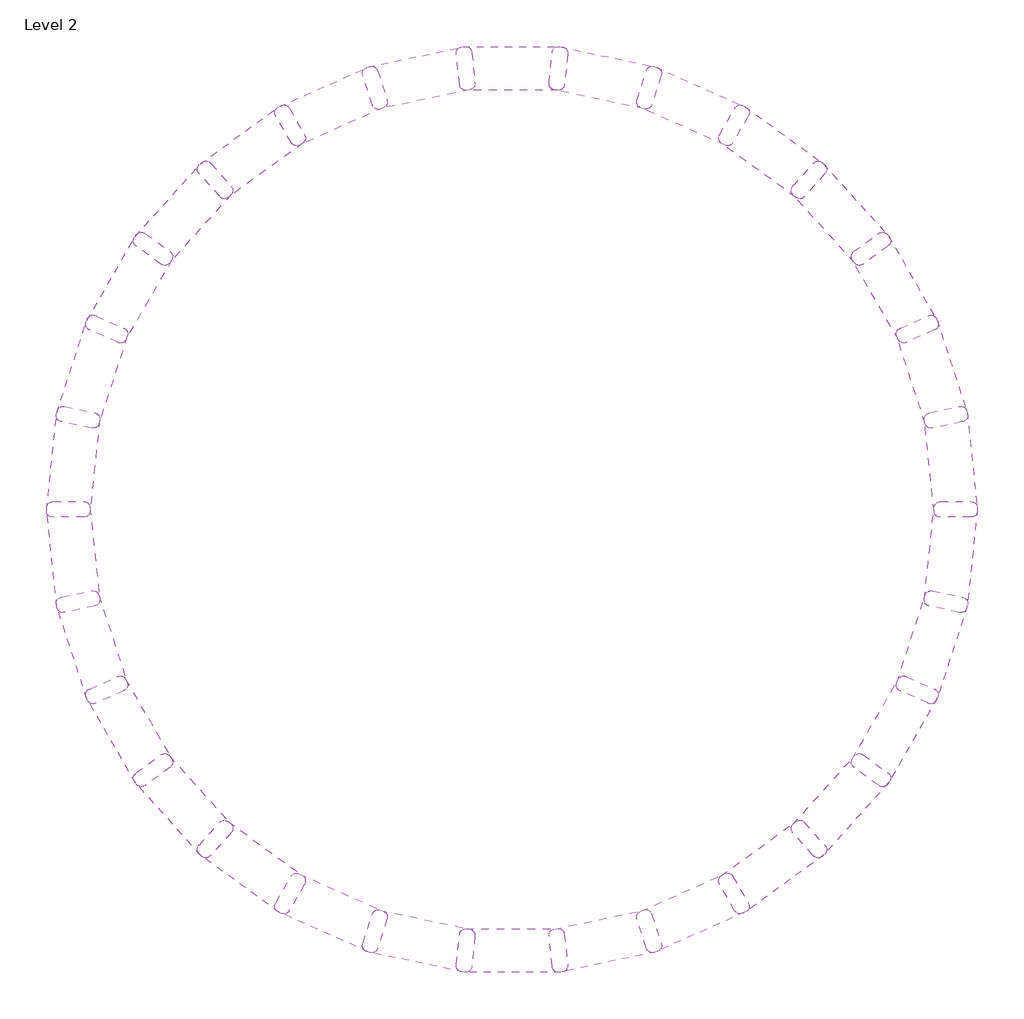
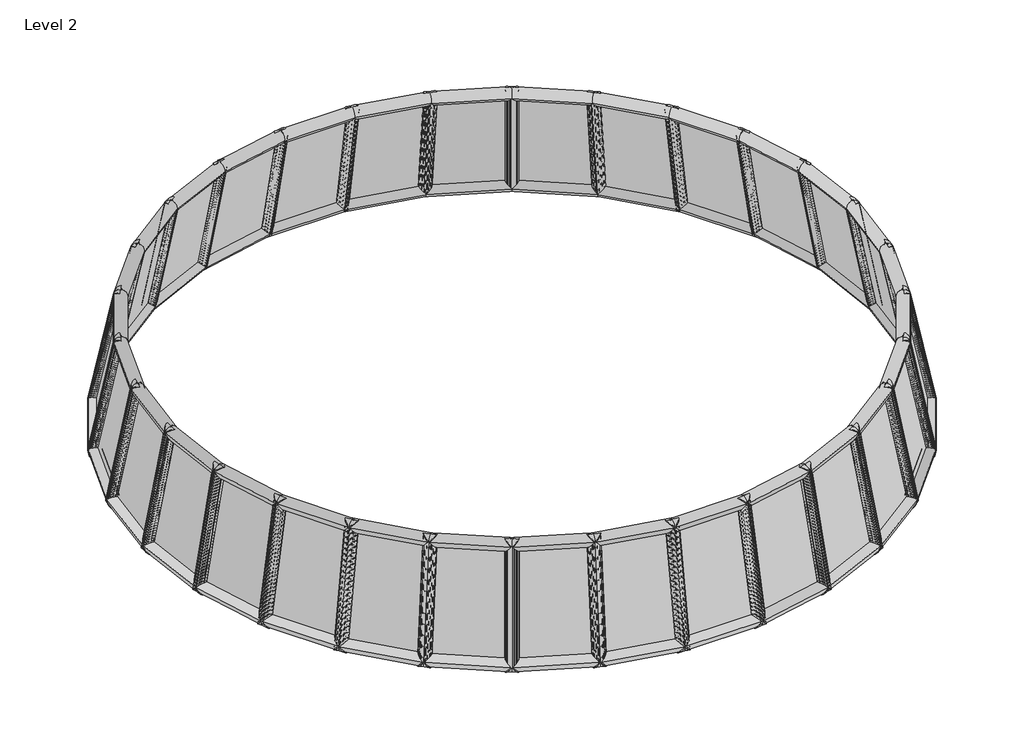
# One storey: 30 plates.
"""IFC4 building model written with IfcOpenShell, lengths in millimetres."""

import ifcopenshell
import ifcopenshell.guid

model = None  # the IFC model being written
_history = None  # IfcOwnerHistory: only IFC2X3 demands one
_inside = {}  # id of a spatial element -> (the spatial element, [elements in it])
_under = {}  # id of a project, library or spatial element -> (it, [spatial elements below it])
_declared = {}  # id of a project -> (the project, [libraries it declares])
_typed = {}  # id of a type object -> (the type object, [elements of that type])
_made_of = {}  # id of a material, layer set ... -> (it, [elements and type objects made of it])


def new_model(schema):
    """Start an empty IFC model of exactly this schema.

    Asked for "IFC4X3", IfcOpenShell would pick the latest addendum, in which some entities
    have other attributes; the version numbers below select the first issue.
    IFC2X3 requires an IfcOwnerHistory on every rooted entity: one is made here for all.
    """
    global model, _history
    if schema == "IFC4X3":
        model = ifcopenshell.file(schema_version=(4, 3, 0, 0))
    else:
        model = ifcopenshell.file(schema=schema)
    _inside.clear()
    _under.clear()
    _declared.clear()
    _typed.clear()
    _made_of.clear()
    _history = None
    if model.schema == "IFC2X3":
        org = make("IfcOrganization", Name="unknown")
        user = make(
            "IfcPersonAndOrganization",
            ThePerson=make("IfcPerson", FamilyName="unknown"),
            TheOrganization=org,
        )
        app = make(
            "IfcApplication",
            ApplicationDeveloper=org,
            Version="unknown",
            ApplicationFullName="unknown",
            ApplicationIdentifier="unknown",
        )
        _history = make(
            "IfcOwnerHistory",
            OwningUser=user,
            OwningApplication=app,
            ChangeAction="ADDED",
            CreationDate=0,
        )
    return model


def make(cls, **values):
    """One entity of the class cls with the attributes given. An attribute that is None is left unset."""
    return model.create_entity(
        cls, **{name: value for name, value in values.items() if value is not None}
    )


def rooted(cls, **values):
    """An entity with a GlobalId (a new one), such as an element, a storey or a relation."""
    return make(cls, GlobalId=ifcopenshell.guid.new(), OwnerHistory=_history, **values)


def si_unit(unit_type, name, prefix=None):
    """IfcSIUnit, for example si_unit("LENGTHUNIT", "METRE", prefix="MILLI")."""
    return make("IfcSIUnit", UnitType=unit_type, Prefix=prefix, Name=name)


def assignment(units):
    """IfcUnitAssignment: the units of a project."""
    return None if units is None else make("IfcUnitAssignment", Units=units)


def point(xyz):
    """IfcCartesianPoint."""
    return None if xyz is None else make("IfcCartesianPoint", Coordinates=xyz)


def direction(xyz):
    """IfcDirection."""
    return None if xyz is None else make("IfcDirection", DirectionRatios=xyz)


def frame(location, z_axis=None, x_axis=None):
    """IfcAxis2Placement3D, a coordinate frame: its origin and axes. An axis left out is left unset."""
    return make(
        "IfcAxis2Placement3D",
        Location=point(location),
        Axis=direction(z_axis),
        RefDirection=direction(x_axis),
    )


def origin():
    """The frame at (0, 0, 0) with its axes left unset."""
    return frame((0.0, 0.0, 0.0))


def origin_with_axes():
    """The frame at (0, 0, 0) with the z axis (0, 0, 1) and the x axis (1, 0, 0) written out."""
    return frame((0.0, 0.0, 0.0), z_axis=(0.0, 0.0, 1.0), x_axis=(1.0, 0.0, 0.0))


def place(relative_to, where):
    """IfcLocalPlacement: puts the frame where relative to a parent placement (None: the world)."""
    return make(
        "IfcLocalPlacement", PlacementRelTo=relative_to, RelativePlacement=where
    )


def context(
    kind, dimensions, precision=None, world=None, true_north=None, identifier=None
):
    """IfcGeometricRepresentationContext, for example the 3D "Model" context."""
    return make(
        "IfcGeometricRepresentationContext",
        ContextIdentifier=identifier,
        ContextType=kind,
        CoordinateSpaceDimension=dimensions,
        Precision=precision,
        WorldCoordinateSystem=world,
        TrueNorth=true_north,
    )


def project(units=None, contexts=None):
    """IfcProject with its units and contexts."""
    return rooted(
        "IfcProject",
        Name="project",
        RepresentationContexts=contexts,
        UnitsInContext=assignment(units),
    )


def spatial(cls, under=None, at=None, **own):
    """A site, building, storey or space (cls), placed at a placement, below another one or the project."""
    s = rooted(cls, ObjectPlacement=at, **own)
    if under is not None:
        _under.setdefault(under.id(), (under, []))[1].append(s)
    return s


def polyline(points):
    """IfcPolyline through the points."""
    return make("IfcPolyline", Points=[point(p) for p in points])


def ellipse_curve(where, semi_axis1, semi_axis2):
    """IfcEllipse in the frame where."""
    return make(
        "IfcEllipse", Position=where, SemiAxis1=semi_axis1, SemiAxis2=semi_axis2
    )


def outline(outer, holes=None, kind="AREA"):
    """IfcArbitraryClosedProfileDef: a profile drawn as a closed curve; with holes, ...WithVoids."""
    if holes is None:
        return make("IfcArbitraryClosedProfileDef", ProfileType=kind, OuterCurve=outer)
    return make(
        "IfcArbitraryProfileDefWithVoids",
        ProfileType=kind,
        OuterCurve=outer,
        InnerCurves=holes,
    )


def extrude(swept, where, along, depth):
    """IfcExtrudedAreaSolid: the profile swept, set in the frame where, extruded along a direction by depth."""
    return make(
        "IfcExtrudedAreaSolid",
        SweptArea=swept,
        Position=where,
        ExtrudedDirection=direction(along),
        Depth=depth,
    )


def shape(context_of_items, identifier, shape_type, items):
    """IfcShapeRepresentation: the items that make up one representation, for example the "Body"."""
    return make(
        "IfcShapeRepresentation",
        ContextOfItems=context_of_items,
        RepresentationIdentifier=identifier,
        RepresentationType=shape_type,
        Items=items,
    )


def source(mapping_origin, context_of_items, identifier, shape_type, items):
    """IfcRepresentationMap: a shape defined once, which mapped items show again and again."""
    return make(
        "IfcRepresentationMap",
        MappingOrigin=mapping_origin,
        MappedRepresentation=shape(context_of_items, identifier, shape_type, items),
    )


def transform(
    local_origin,
    x_axis=None,
    y_axis=None,
    z_axis=None,
    scale=None,
    scale2=None,
    scale3=None,
    uniform=True,
):
    """IfcCartesianTransformationOperator3D, or its non-uniform kind. x_axis, y_axis, z_axis: its Axis1, 2, 3."""
    if uniform:
        return make(
            "IfcCartesianTransformationOperator3D",
            Axis1=direction(x_axis),
            Axis2=direction(y_axis),
            LocalOrigin=point(local_origin),
            Scale=scale,
            Axis3=direction(z_axis),
        )
    return make(
        "IfcCartesianTransformationOperator3DnonUniform",
        Axis1=direction(x_axis),
        Axis2=direction(y_axis),
        LocalOrigin=point(local_origin),
        Scale=scale,
        Axis3=direction(z_axis),
        Scale2=scale2,
        Scale3=scale3,
    )


def mapped(mapping_source, mapping_target):
    """IfcMappedItem: shows the shape of a source again, moved by a transform."""
    return make(
        "IfcMappedItem", MappingSource=mapping_source, MappingTarget=mapping_target
    )


def made_of(thing, what):
    """Note that an element or type object is made of a material, layer set ...; save() writes the relation."""
    if what is not None:
        _made_of.setdefault(what.id(), (what, []))[1].append(thing)
    return thing


def element(
    cls,
    number,
    at=None,
    inside=None,
    cuts=None,
    type_object=None,
    material=None,
    context=None,
    identifier="Body",
    shape_type=None,
    held_by="IfcProductDefinitionShape",
    body=None,
    shapes=None,
    **own,
):
    """One element of the class cls, such as IfcWall. Its Tag is "e" and its number.

    at: its placement. inside: the storey or other place that contains it. cuts: it is an
    opening in that element (IfcRelVoidsElement). A single representation is given by context,
    identifier, shape_type and body (its items); several are given by shapes. held_by: the class
    of the entity that holds the representations. save() writes the other relations.
    """
    e = rooted(cls, Tag="e%d" % number, ObjectPlacement=at, **own)
    if body is not None:
        shapes = [shape(context, identifier, shape_type, body)]
    if shapes is not None:
        e.Representation = make(held_by, Representations=shapes)
    if inside is not None:
        _inside.setdefault(inside.id(), (inside, []))[1].append(e)
    if cuts is not None:
        rooted(
            "IfcRelVoidsElement", RelatingBuildingElement=cuts, RelatedOpeningElement=e
        )
    if type_object is not None:
        _typed.setdefault(type_object.id(), (type_object, []))[1].append(e)
    return made_of(e, material)


def aggregate(whole, parts):
    """IfcRelAggregates: a whole, such as a stair, and the parts it consists of."""
    return rooted("IfcRelAggregates", RelatingObject=whole, RelatedObjects=parts)


def save(model, path):
    """Write the relations noted so far, then the file.

    IfcRelAggregates (storeys below a building ...), IfcRelContainedInSpatialStructure (elements
    in a storey), IfcRelDefinesByType, IfcRelAssociatesMaterial and IfcRelDeclares: one each for
    every whole, place, type object, material and project.
    """
    for whole, parts in _under.values():
        aggregate(whole, parts)
    for where, things in _inside.values():
        rooted(
            "IfcRelContainedInSpatialStructure",
            RelatedElements=things,
            RelatingStructure=where,
        )
    for kind, things in _typed.values():
        rooted("IfcRelDefinesByType", RelatedObjects=things, RelatingType=kind)
    for what, things in _made_of.values():
        rooted("IfcRelAssociatesMaterial", RelatedObjects=things, RelatingMaterial=what)
    for by, libraries in _declared.values():
        rooted("IfcRelDeclares", RelatingContext=by, RelatedDefinitions=libraries)
    model.write(path)


def cylinder_surface(at, radius):
    """IfcCylindricalSurface: all points at the distance radius from the z axis of the frame at."""
    return make("IfcCylindricalSurface", Position=at, Radius=radius)


def advanced_brep(points, edges, surfaces, faces):
    """IfcAdvancedBrep: a solid bounded by faces that lie on surfaces and meet in shared edges.

    An edge is (start, end): straight between two places in points (the first is 0);
    or (start, end, curve); or (start, end, curve, False) where it runs against its curve.
    A face is (place in surfaces, loops), or (place, loops, False) where it looks against
    its surface's normal. A loop lists edges by number (the first is 1), with a minus sign
    where the edge is run from its end to its start. The first loop is the outer one.
    """
    corners = [point(p) for p in points]
    vertices = [make("IfcVertexPoint", VertexGeometry=c) for c in corners]
    made = []
    for start, end, *more in edges:
        made.append(
            make(
                "IfcEdgeCurve",
                EdgeStart=vertices[start],
                EdgeEnd=vertices[end],
                EdgeGeometry=more[0] if more else make("IfcPolyline", Points=[corners[start], corners[end]]),
                SameSense=more[1] if len(more) > 1 else True,
            )
        )
    hull = []
    for where, loops, *sense in faces:
        bounds = []
        for j, loop in enumerate(loops):
            ring = [make("IfcOrientedEdge", EdgeElement=made[abs(k) - 1], Orientation=k > 0) for k in loop]
            bounds.append(
                make(
                    "IfcFaceOuterBound" if j == 0 else "IfcFaceBound",
                    Bound=make("IfcEdgeLoop", EdgeList=ring),
                    Orientation=True,
                )
            )
        hull.append(make("IfcAdvancedFace", Bounds=bounds, FaceSurface=surfaces[where], SameSense=sense[0] if sense else True))
    return make("IfcAdvancedBrep", Outer=make("IfcClosedShell", CfsFaces=hull))


def curtainpanel_curtainpanel_0605ef13(model_context):
    return source(origin(), model_context, "Body", "SolidModel", [
        extrude(outline(polyline([(2879.1178146, 2879.1178146), (3705.8247799, 6851.9965682), (6345.4179195, 6246.4051917), (5357.6394861, 2310.4804256), (2879.1178146, 2879.1178146)])), origin_with_axes(), (0.0, 0.0, 1.0), 20.0),
        advanced_brep(
        [(2879.1178146, 2879.1178146, -220.0), (2879.1178146, 2879.1178146, 220.0), (5357.6394861, 2310.4804256, 220.0), (5357.6394861, 2310.4804256, -220.0), (6345.4179195, 6246.4051917, 220.0), (6345.4179195, 6246.4051917, -220.0), (3705.8247799, 6851.9965682, 220.0), (3705.8247799, 6851.9965682, -220.0)],
        [
            (0, 1, ellipse_curve(frame((2879.1178146, 2879.1178146, 0.0), z_axis=(0.5396797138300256, -0.8418704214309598, 0.0), x_axis=(-0.8418704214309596, -0.5396797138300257, 0.0)), 308.006986, 220.0)),
            (1, 2),
            (2, 3, ellipse_curve(frame((5357.6394861, 2310.4804256, 0.0), z_axis=(-0.8526847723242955, -0.5224257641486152, 0.0), x_axis=(-0.5224257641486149, 0.8526847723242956, 0.0)), 308.006986, 220.0)),
            (3, 0),
            (1, 0, ellipse_curve(frame((2879.1178146, 2879.1178146, 0.0), z_axis=(0.5396797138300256, -0.8418704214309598, 0.0), x_axis=(-0.8418704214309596, -0.5396797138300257, 0.0)), 308.006986, 220.0)),
            (3, 2, ellipse_curve(frame((5357.6394861, 2310.4804256, 0.0), z_axis=(-0.8526847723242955, -0.5224257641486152, 0.0), x_axis=(-0.5224257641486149, 0.8526847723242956, 0.0)), 308.006986, 220.0)),
            (2, 4),
            (4, 5, ellipse_curve(frame((6345.4179195, 6246.4051917, 0.0), z_axis=(0.5224257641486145, -0.8526847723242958, 0.0), x_axis=(-0.852684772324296, -0.5224257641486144, 0.0)), 314.3437571, 220.0)),
            (5, 3),
            (5, 4, ellipse_curve(frame((6345.4179195, 6246.4051917, 0.0), z_axis=(0.5224257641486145, -0.8526847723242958, 0.0), x_axis=(-0.852684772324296, -0.5224257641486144, 0.0)), 314.3437571, 220.0)),
            (4, 6),
            (6, 7, ellipse_curve(frame((3705.8247799, 6851.9965682, 0.0), z_axis=(0.8418704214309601, 0.5396797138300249, 0.0), x_axis=(0.539679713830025, -0.84187042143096, 0.0)), 314.3437571, 220.0)),
            (7, 5),
            (7, 6, ellipse_curve(frame((3705.8247799, 6851.9965682, 0.0), z_axis=(0.8418704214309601, 0.5396797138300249, 0.0), x_axis=(0.539679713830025, -0.84187042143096, 0.0)), 314.3437571, 220.0)),
            (6, 1),
            (0, 7),
        ],
        [
            cylinder_surface(frame((2879.1178146, 2879.1178146, 0.0), z_axis=(-0.9746772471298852, 0.22361633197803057, 0.0), x_axis=(0.22361633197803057, 0.9746772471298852, 0.0)), 220.0),
            cylinder_surface(frame((5357.6394861, 2310.4804256, 0.0), z_axis=(-0.24341622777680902, -0.9699219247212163, 0.0), x_axis=(-0.9699219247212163, 0.24341622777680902, 0.0)), 220.0),
            cylinder_surface(frame((6345.4179195, 6246.4051917, 0.0), z_axis=(0.9746772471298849, -0.22361633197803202, 0.0), x_axis=(-0.22361633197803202, -0.9746772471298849, 0.0)), 220.0),
            cylinder_surface(frame((3705.8247799, 6851.9965682, 0.0), z_axis=(0.2037237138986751, 0.9790284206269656, 0.0), x_axis=(0.9790284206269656, -0.2037237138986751, 0.0)), 220.0),
        ],
        [
            (0, [[1, 2, 3, 4]]),
            (0, [[5, -4, 6, -2]]),
            (1, [[-3, 7, 8, 9]]),
            (1, [[-6, -9, 10, -7]]),
            (2, [[-8, 11, 12, 13]]),
            (2, [[-10, -13, 14, -11]]),
            (3, [[-12, 15, -1, 16]]),
            (3, [[-14, -16, -5, -15]]),
        ],
    ),
    ])


model = new_model("IFC4")

# Units and contexts
model_context = context("Model", 3, world=origin())
ifc_project = project(units=[si_unit("LENGTHUNIT", "METRE", prefix="MILLI")], contexts=[model_context])

# Site, building, storey
site = spatial("IfcSite", under=ifc_project)
building = spatial("IfcBuilding", under=site)
storey = spatial("IfcBuildingStorey", under=building, Name="Level 2", Elevation=4000.0)

# Plates
placement = place(None, origin())
curtainpanel_curtainpanel_shape = curtainpanel_curtainpanel_0605ef13(model_context)
element("IfcPlate", 1, ObjectType="CurtainPanel : CurtainPanel", at=placement, inside=storey, context=model_context, shape_type="MappedRepresentation", body=[
    mapped(curtainpanel_curtainpanel_shape, transform((11413.8214092, -2502.0747591, 15217.1670744), x_axis=(-0.05878863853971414, 0.9738671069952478, -0.2193781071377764), y_axis=(0.21120333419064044, -0.20264970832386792, -0.9562040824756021), z_axis=(-0.9756726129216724, -0.1025473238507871, -0.19377047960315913))),
])
element("IfcPlate", 2, ObjectType="CurtainPanel : CurtainPanel", at=placement, inside=storey, context=model_context, shape_type="MappedRepresentation", body=[
    mapped(curtainpanel_curtainpanel_shape, transform((11303.2768301, 2458.8480989, 15217.1670744), x_axis=(-0.44981353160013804, 0.8657603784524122, -0.219378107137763), y_axis=(0.2753689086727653, -0.09922558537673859, -0.9562040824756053), z_axis=(-0.8496115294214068, -0.4905234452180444, -0.1937704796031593))),
])
element("IfcPlate", 3, ObjectType="CurtainPanel : CurtainPanel", at=placement, inside=storey, context=model_context, shape_type="MappedRepresentation", body=[
    mapped(curtainpanel_curtainpanel_shape, transform((9184.5002221, 6945.9141106, 15217.1670744), x_axis=(-0.7630615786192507, 0.6079558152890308, -0.21937810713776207), y_axis=(0.29192069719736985, 0.021355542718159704, -0.9562040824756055), z_axis=(-0.5766448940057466, -0.7936836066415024, -0.19377047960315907))),
])
element("IfcPlate", 4, ObjectType="CurtainPanel : CurtainPanel", at=placement, inside=storey, context=model_context, shape_type="MappedRepresentation", body=[
    mapped(curtainpanel_curtainpanel_shape, transform((5423.8473093, 10183.2687988, 15217.1670744), x_axis=(-0.9443693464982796, 0.24503016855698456, -0.21937810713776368), y_axis=(0.2579967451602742, 0.13824410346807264, -0.9562040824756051), z_axis=(-0.2039711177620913, -0.959608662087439, -0.19377047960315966))),
])
element("IfcPlate", 5, ObjectType="CurtainPanel : CurtainPanel", at=placement, inside=storey, context=model_context, shape_type="MappedRepresentation", body=[
    mapped(curtainpanel_curtainpanel_shape, transform((671.5691447, 11611.1441274, 15217.1670744), x_axis=(-0.9623870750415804, -0.16026342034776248, -0.21937810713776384), y_axis=(0.17946281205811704, 0.23122900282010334, -0.9562040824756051), z_axis=(0.20397111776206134, -0.9596086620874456, -0.19377047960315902))),
])
element("IfcPlate", 6, ObjectType="CurtainPanel : CurtainPanel", at=placement, inside=storey, context=model_context, shape_type="MappedRepresentation", body=[
    mapped(curtainpanel_curtainpanel_shape, transform((-4250.6222039, 10982.6474804, 15217.1670744), x_axis=(-0.8139993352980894, -0.5378460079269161, -0.21937810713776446), y_axis=(0.06989812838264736, 0.2842323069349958, -0.9562040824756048), z_axis=(0.576644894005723, -0.7936836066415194, -0.19377047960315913))),
])
element("IfcPlate", 7, ObjectType="CurtainPanel : CurtainPanel", at=placement, inside=storey, context=model_context, shape_type="MappedRepresentation", body=[
    mapped(curtainpanel_curtainpanel_shape, transform((-8491.6351356, 8406.4516376, 15217.1670744), x_axis=(-0.5248637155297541, -0.822430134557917, -0.2193781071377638), y_axis=(-0.05175257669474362, 0.2880892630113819, -0.9562040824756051), z_axis=(0.8496115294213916, -0.4905234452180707, -0.1937704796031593))),
])
element("IfcPlate", 8, ObjectType="CurtainPanel : CurtainPanel", at=placement, inside=storey, context=model_context, shape_type="MappedRepresentation", body=[
    mapped(curtainpanel_curtainpanel_shape, transform((11619.2561212, -15.8039784, 15217.1670744), x_axis=(-0.25998232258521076, 0.940362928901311, -0.21937810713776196), y_axis=(0.2487212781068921, -0.15430968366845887, -0.9562040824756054), z_axis=(-0.9330310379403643, -0.30316016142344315, -0.19377047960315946))),
])
element("IfcPlate", 9, ObjectType="CurtainPanel : CurtainPanel", at=placement, inside=storey, context=model_context, shape_type="MappedRepresentation", body=[
    mapped(curtainpanel_curtainpanel_shape, transform((10479.693347, 4813.7273023, 15217.1670744), x_axis=(-0.6199857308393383, 0.7533199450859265, -0.21937810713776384), y_axis=(0.2899815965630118, -0.039804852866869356, -0.9562040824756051), z_axis=(-0.7290599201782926, -0.6564485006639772, -0.19377047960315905))),
])
element("IfcPlate", 10, ObjectType="CurtainPanel : CurtainPanel", at=placement, inside=storey, context=model_context, shape_type="MappedRepresentation", body=[
    mapped(curtainpanel_curtainpanel_shape, transform((7474.3036101, 8762.221729, 15217.1670744), x_axis=(-0.8727879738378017, 0.43602109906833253, -0.21937810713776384), y_axis=(0.2811014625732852, 0.08158259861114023, -0.9562040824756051), z_axis=(-0.3990277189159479, -0.8962309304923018, -0.19377047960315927))),
])
element("IfcPlate", 11, ObjectType="CurtainPanel : CurtainPanel", at=placement, inside=storey, context=model_context, shape_type="MappedRepresentation", body=[
    mapped(curtainpanel_curtainpanel_shape, transform((3122.7460993, 11146.9487443, 15217.1670744), x_axis=(-0.9746772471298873, 0.043330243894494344, -0.2193781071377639), y_axis=(0.22361633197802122, 0.18886367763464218, -0.9562040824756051), z_axis=(0.0, -0.9810468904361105, -0.1937704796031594))),
])
element("IfcPlate", 12, ObjectType="CurtainPanel : CurtainPanel", at=placement, inside=storey, context=model_context, shape_type="MappedRepresentation", body=[
    mapped(curtainpanel_curtainpanel_shape, transform((-1822.5553593, 11555.5673827, 15217.1670744), x_axis=(-0.9080359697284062, -0.35685280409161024, -0.2193781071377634), y_axis=(0.12746590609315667, 0.2634885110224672, -0.9562040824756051), z_axis=(0.3990277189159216, -0.8962309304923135, -0.19377047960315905))),
])
element("IfcPlate", 13, ObjectType="CurtainPanel : CurtainPanel", at=placement, inside=storey, context=model_context, shape_type="MappedRepresentation", body=[
    mapped(curtainpanel_curtainpanel_shape, transform((-6506.5132167, 9917.4237695, 15217.1670744), x_axis=(-0.6843870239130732, -0.6953327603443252, -0.2193781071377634), y_axis=(0.009275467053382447, 0.29255378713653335, -0.9562040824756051), z_axis=(0.729059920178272, -0.6564485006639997, -0.19377047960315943))),
])
element("IfcPlate", 14, ObjectType="CurtainPanel : CurtainPanel", at=placement, inside=storey, context=model_context, shape_type="MappedRepresentation", body=[
    mapped(curtainpanel_curtainpanel_shape, transform((-10119.228607, 6515.7678174, 15217.1670744), x_axis=(-0.3424013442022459, -0.91358336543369, -0.21937810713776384), y_axis=(-0.11051878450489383, 0.2710338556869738, -0.9562040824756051), z_axis=(0.9330310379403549, -0.30316016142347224, -0.19377047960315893))),
])
element("IfcPlate", 15, ObjectType="CurtainPanel : CurtainPanel", at=placement, inside=storey, context=model_context, shape_type="MappedRepresentation", body=[
    mapped(curtainpanel_curtainpanel_shape, transform((-11318.1599862, 4328.0042643, 15217.1670744), x_axis=(-0.14497439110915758, -0.9648086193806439, -0.2193781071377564), y_axis=(-0.1644547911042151, 0.2421329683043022, -0.9562040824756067), z_axis=(0.9756726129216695, -0.10254732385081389, -0.19377047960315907))),
])
element("IfcPlate", 16, ObjectType="CurtainPanel : CurtainPanel", at=placement, inside=storey, context=model_context, shape_type="MappedRepresentation", body=[
    mapped(curtainpanel_curtainpanel_shape, transform((-12036.0302188, 1938.7767437, 15217.1670744), x_axis=(0.05878863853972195, -0.9738671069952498, -0.21937810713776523), y_axis=(-0.21120333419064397, 0.20264970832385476, -0.9562040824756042), z_axis=(0.9756726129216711, 0.1025473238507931, -0.19377047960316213))),
])
element("IfcPlate", 17, ObjectType="CurtainPanel : CurtainPanel", at=placement, inside=storey, context=model_context, shape_type="MappedRepresentation", body=[
    mapped(curtainpanel_curtainpanel_shape, transform((-11925.4856397, -3022.1461144, 15217.1670744), x_axis=(0.4498135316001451, -0.8657603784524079, -0.21937810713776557), y_axis=(-0.27536890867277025, 0.09922558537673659, -0.956204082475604), z_axis=(0.8496115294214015, 0.4905234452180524, -0.19377047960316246))),
])
element("IfcPlate", 18, ObjectType="CurtainPanel : CurtainPanel", at=placement, inside=storey, context=model_context, shape_type="MappedRepresentation", body=[
    mapped(curtainpanel_curtainpanel_shape, transform((-9806.7090317, -7509.2121261, 15217.1670744), x_axis=(0.7630615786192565, -0.6079558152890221, -0.21937810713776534), y_axis=(-0.29192069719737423, -0.021355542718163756, -0.956204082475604), z_axis=(0.5766448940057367, 0.7936836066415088, -0.19377047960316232))),
])
element("IfcPlate", 19, ObjectType="CurtainPanel : CurtainPanel", at=placement, inside=storey, context=model_context, shape_type="MappedRepresentation", body=[
    mapped(curtainpanel_curtainpanel_shape, transform((-6046.0561189, -10746.5668142, 15217.1670744), x_axis=(0.9443693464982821, -0.24503016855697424, -0.21937810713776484), y_axis=(-0.25799674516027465, -0.1382441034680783, -0.9562040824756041), z_axis=(0.2039711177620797, 0.9596086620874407, -0.1937704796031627))),
])
element("IfcPlate", 20, ObjectType="CurtainPanel : CurtainPanel", at=placement, inside=storey, context=model_context, shape_type="MappedRepresentation", body=[
    mapped(curtainpanel_curtainpanel_shape, transform((-1293.7779544, -12174.4421429, 15217.1670744), x_axis=(0.9623870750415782, 0.16026342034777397, -0.21937810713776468), y_axis=(-0.1794628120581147, -0.2312290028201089, -0.9562040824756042), z_axis=(-0.20397111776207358, 0.9596086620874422, -0.19377047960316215))),
])
element("IfcPlate", 21, ObjectType="CurtainPanel : CurtainPanel", at=placement, inside=storey, context=model_context, shape_type="MappedRepresentation", body=[
    mapped(curtainpanel_curtainpanel_shape, transform((3628.4133942, -11545.9454958, 15217.1670744), x_axis=(0.8139993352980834, 0.5378460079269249, -0.2193781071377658), y_axis=(-0.06989812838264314, -0.2842323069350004, -0.956204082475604), z_axis=(-0.5766448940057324, 0.7936836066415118, -0.19377047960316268))),
])
element("IfcPlate", 22, ObjectType="CurtainPanel : CurtainPanel", at=placement, inside=storey, context=model_context, shape_type="MappedRepresentation", body=[
    mapped(curtainpanel_curtainpanel_shape, transform((7869.426326, -8969.749653, 15217.1670744), x_axis=(0.5248637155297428, 0.8224301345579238, -0.2193781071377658), y_axis=(0.05175257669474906, -0.2880892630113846, -0.956204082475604), z_axis=(-0.8496115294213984, 0.4905234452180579, -0.1937704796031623))),
])
element("IfcPlate", 23, ObjectType="CurtainPanel : CurtainPanel", at=placement, inside=storey, context=model_context, shape_type="MappedRepresentation", body=[
    mapped(curtainpanel_curtainpanel_shape, transform((-12241.4649308, -547.4940371, 15217.1670744), x_axis=(0.2599823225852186, -0.9403629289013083, -0.2193781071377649), y_axis=(-0.24872127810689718, 0.15430968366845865, -0.9562040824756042), z_axis=(0.9330310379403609, 0.3031601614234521, -0.19377047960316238))),
])
element("IfcPlate", 24, ObjectType="CurtainPanel : CurtainPanel", at=placement, inside=storey, context=model_context, shape_type="MappedRepresentation", body=[
    mapped(curtainpanel_curtainpanel_shape, transform((-11101.9021566, -5377.0253177, 15217.1670744), x_axis=(0.619985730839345, -0.7533199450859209, -0.21937810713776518), y_axis=(-0.28998159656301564, 0.03980485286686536, -0.9562040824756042), z_axis=(0.7290599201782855, 0.656448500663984, -0.19377047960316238))),
])
element("IfcPlate", 25, ObjectType="CurtainPanel : CurtainPanel", at=placement, inside=storey, context=model_context, shape_type="MappedRepresentation", body=[
    mapped(curtainpanel_curtainpanel_shape, transform((-8096.5124197, -9325.5197444, 15217.1670744), x_axis=(0.8727879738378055, -0.4360210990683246, -0.21937810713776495), y_axis=(-0.28110146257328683, -0.08158259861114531, -0.9562040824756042), z_axis=(0.3990277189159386, 0.8962309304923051, -0.19377047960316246))),
])
element("IfcPlate", 26, ObjectType="CurtainPanel : CurtainPanel", at=placement, inside=storey, context=model_context, shape_type="MappedRepresentation", body=[
    mapped(curtainpanel_curtainpanel_shape, transform((-3744.9549089, -11710.2467597, 15217.1670744), x_axis=(0.9746772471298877, -0.0433302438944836, -0.21937810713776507), y_axis=(-0.22361633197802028, -0.18886367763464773, -0.9562040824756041), z_axis=(0.0, 0.9810468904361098, -0.19377047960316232))),
])
element("IfcPlate", 27, ObjectType="CurtainPanel : CurtainPanel", at=placement, inside=storey, context=model_context, shape_type="MappedRepresentation", body=[
    mapped(curtainpanel_curtainpanel_shape, transform((1200.3465497, -12118.8653981, 15217.1670744), x_axis=(0.9080359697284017, 0.3568528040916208, -0.21937810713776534), y_axis=(-0.12746590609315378, -0.26348851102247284, -0.956204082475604), z_axis=(-0.39902771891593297, 0.8962309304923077, -0.19377047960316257))),
])
element("IfcPlate", 28, ObjectType="CurtainPanel : CurtainPanel", at=placement, inside=storey, context=model_context, shape_type="MappedRepresentation", body=[
    mapped(curtainpanel_curtainpanel_shape, transform((5884.3044071, -10480.7217849, 15217.1670744), x_axis=(0.6843870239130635, 0.695332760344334, -0.21937810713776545), y_axis=(-0.009275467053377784, -0.29255378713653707, -0.956204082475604), z_axis=(-0.7290599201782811, 0.6564485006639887, -0.19377047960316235))),
])
element("IfcPlate", 29, ObjectType="CurtainPanel : CurtainPanel", at=placement, inside=storey, context=model_context, shape_type="MappedRepresentation", body=[
    mapped(curtainpanel_curtainpanel_shape, transform((9497.0197974, -7079.0658328, 15217.1670744), x_axis=(0.3424013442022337, 0.9135833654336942, -0.21937810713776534), y_axis=(0.11051878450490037, -0.2710338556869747, -0.956204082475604), z_axis=(-0.9330310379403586, 0.30316016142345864, -0.1937704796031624))),
])
element("IfcPlate", 30, ObjectType="CurtainPanel : CurtainPanel", at=placement, inside=storey, context=model_context, shape_type="MappedRepresentation", body=[
    mapped(curtainpanel_curtainpanel_shape, transform((10695.9511766, -4891.3022798, 15217.1670744), x_axis=(0.14497439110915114, 0.9648086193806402, -0.21937810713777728), y_axis=(0.16445479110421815, -0.24213296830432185, -0.9562040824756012), z_axis=(-0.9756726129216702, 0.10254732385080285, -0.1937704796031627))),
])

save(model, "model.ifc")
